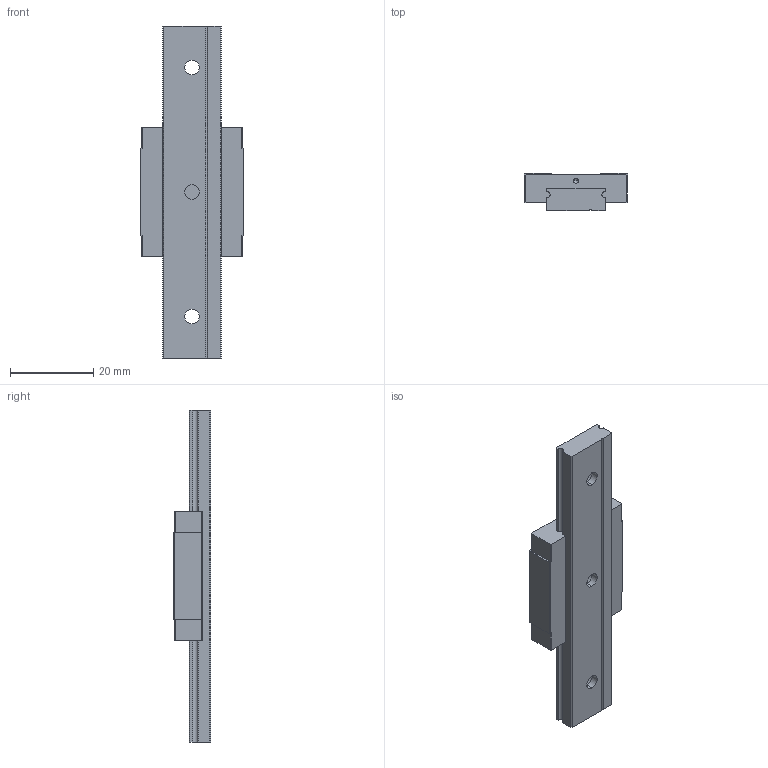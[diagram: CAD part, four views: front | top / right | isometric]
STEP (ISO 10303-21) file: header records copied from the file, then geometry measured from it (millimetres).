
FILE_DESCRIPTION (( 'STEP AP214' ), '1' );
FILE_NAME ('2.1056 Lineaarikelkka MGW7CE.STEP', '2025-09-19T06:55:03', ( '' ), ( '' ), 'SwSTEP 2.0', 'SolidWorks 2025', '' );
FILE_SCHEMA (( 'AUTOMOTIVE_DESIGN' ));
Length unit declared in the file: millimetre
Products named in the file (1): 2.1056 Lineaarikelkka MGW7CE
Bounding box: 25 x 9 x 80 mm (x, y, z)
Volume: 9170.1 mm3; surface area: 6173.1 mm2
Topology: 2 solids, 2 shells, 98 faces, 261 edges, 164 vertices
Faces by surface type: plane 53, cylinder 33, cone 12
Entity records: 4073 total; most frequent: DIRECTION 513, CARTESIAN_POINT 512, ORIENTED_EDGE 498, EDGE_CURVE 249, LINE 183, VECTOR 183, AXIS2_PLACEMENT_3D 165, VERTEX_POINT 164
